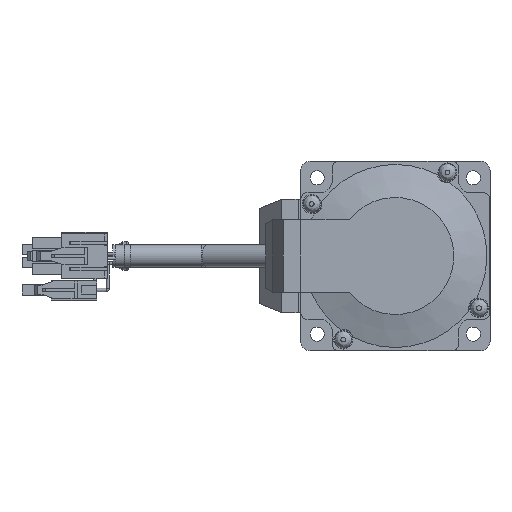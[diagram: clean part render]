
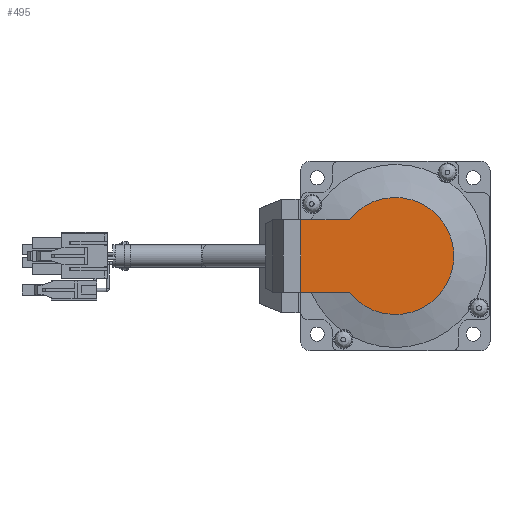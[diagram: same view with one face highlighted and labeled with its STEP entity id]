
A CAD part, left-side view. The second image highlights one B-rep face of the part: STEP entity #495.
In plain terms, the highlighted planar face has unit normal (-1, 0, 0).
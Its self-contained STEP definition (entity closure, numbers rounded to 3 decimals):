
#495 = ADVANCED_FACE( '', ( #1430 ), #1431, .F. );
#1430 = FACE_OUTER_BOUND( '', #3211, .T. );
#1431 = PLANE( '', #3212 );
#3211 = EDGE_LOOP( '', ( #5984, #5985, #5986, #5987 ) );
#3212 = AXIS2_PLACEMENT_3D( '', #5988, #5989, #5990 );
#5984 = ORIENTED_EDGE( '', *, *, #11331, .T. );
#5985 = ORIENTED_EDGE( '', *, *, #11705, .F. );
#5986 = ORIENTED_EDGE( '', *, *, #11695, .F. );
#5987 = ORIENTED_EDGE( '', *, *, #11706, .F. );
#5988 = CARTESIAN_POINT( '', ( -129., -18.538, 0. ) );
#5989 = DIRECTION( '', ( 1., 0., 0. ) );
#5990 = DIRECTION( '', ( 0., 0., -1. ) );
#11331 = EDGE_CURVE( '', #13319, #13317, #13320, .T. );
#11695 = EDGE_CURVE( '', #13958, #13960, #13961, .T. );
#11705 = EDGE_CURVE( '', #13960, #13317, #13975, .T. );
#11706 = EDGE_CURVE( '', #13319, #13958, #13976, .T. );
#13317 = VERTEX_POINT( '', #16650 );
#13319 = VERTEX_POINT( '', #16657 );
#13320 = CIRCLE( '', #16658, 18.538 );
#13958 = VERTEX_POINT( '', #17577 );
#13960 = VERTEX_POINT( '', #17580 );
#13961 = LINE( '', #17581, #17582 );
#13975 = LINE( '', #17605, #17606 );
#13976 = LINE( '', #17607, #17608 );
#16650 = CARTESIAN_POINT( '', ( -129., 14.579, 11.45 ) );
#16657 = CARTESIAN_POINT( '', ( -129., 14.579, -11.45 ) );
#16658 = AXIS2_PLACEMENT_3D( '', #21534, #21535, #21536 );
#17577 = CARTESIAN_POINT( '', ( -129., 30., -11.45 ) );
#17580 = CARTESIAN_POINT( '', ( -129., 30., 11.45 ) );
#17581 = CARTESIAN_POINT( '', ( -129., 30., -11.45 ) );
#17582 = VECTOR( '', #22165, 1000. );
#17605 = CARTESIAN_POINT( '', ( -129., 30., 11.45 ) );
#17606 = VECTOR( '', #22175, 1000. );
#17607 = CARTESIAN_POINT( '', ( -129., 0., -11.45 ) );
#17608 = VECTOR( '', #22176, 1000. );
#21534 = CARTESIAN_POINT( '', ( -129., 0., 0. ) );
#21535 = DIRECTION( '', ( -1., 0., 0. ) );
#21536 = DIRECTION( '', ( 0., 0., 1. ) );
#22165 = DIRECTION( '', ( 0., 0., 1. ) );
#22175 = DIRECTION( '', ( 0., -1., 0. ) );
#22176 = DIRECTION( '', ( 0., 1., 0. ) );
